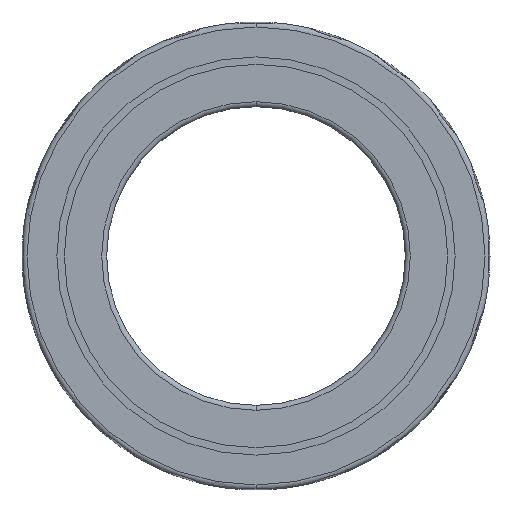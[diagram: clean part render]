
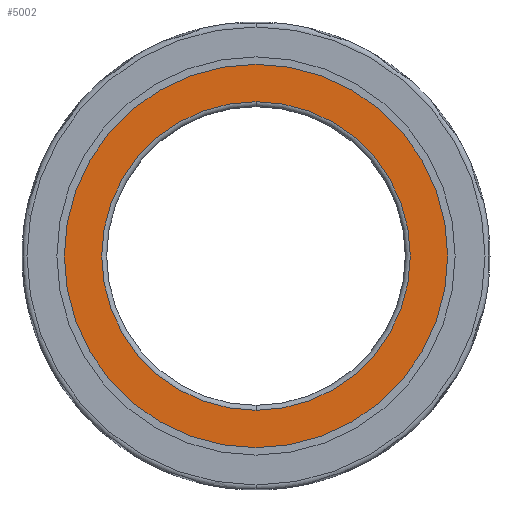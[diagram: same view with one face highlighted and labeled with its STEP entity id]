
A CAD part, front view. The second image highlights one B-rep face of the part: STEP entity #5002.
In plain terms, the highlighted planar face has unit normal (0, -1, 0).
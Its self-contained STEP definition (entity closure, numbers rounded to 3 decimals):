
#143 = EDGE_CURVE ( 'NONE', #6049, #4573, #11818, .T. ) ;
#748 = ORIENTED_EDGE ( 'NONE', *, *, #11024, .F. ) ;
#805 = DIRECTION ( 'NONE',  ( 0., 1., 0. ) ) ;
#1258 = ORIENTED_EDGE ( 'NONE', *, *, #143, .F. ) ;
#1465 = CARTESIAN_POINT ( 'NONE',  ( 16491.984, 2703.742, 0. ) ) ;
#1749 = ORIENTED_EDGE ( 'NONE', *, *, #10948, .T. ) ;
#1840 = CIRCLE ( 'NONE', #11713, 15.5 ) ;
#2720 = EDGE_LOOP ( 'NONE', ( #748, #1258 ) ) ;
#2742 = DIRECTION ( 'NONE',  ( 0., -1., 0. ) ) ;
#3129 = DIRECTION ( 'NONE',  ( 0., -1., 0. ) ) ;
#3145 = VERTEX_POINT ( 'NONE', #8704 ) ;
#3276 = CARTESIAN_POINT ( 'NONE',  ( 16491.984, 2703.742, 0. ) ) ;
#3397 = DIRECTION ( 'NONE',  ( 0., -1., 0. ) ) ;
#3515 = AXIS2_PLACEMENT_3D ( 'NONE', #3276, #8046, #11794 ) ;
#3632 = CARTESIAN_POINT ( 'NONE',  ( 0., 2703.742, 0. ) ) ;
#3640 = CIRCLE ( 'NONE', #3515, 19.25 ) ;
#3661 = VERTEX_POINT ( 'NONE', #3932 ) ;
#3932 = CARTESIAN_POINT ( 'NONE',  ( 16491.984, 2703.742, -19.25 ) ) ;
#4148 = CARTESIAN_POINT ( 'NONE',  ( 16491.984, 2703.742, 15.5 ) ) ;
#4393 = AXIS2_PLACEMENT_3D ( 'NONE', #3632, #805, #5347 ) ;
#4573 = VERTEX_POINT ( 'NONE', #11362 ) ;
#4581 = CARTESIAN_POINT ( 'NONE',  ( 16491.984, 2703.742, 0. ) ) ;
#4903 = ORIENTED_EDGE ( 'NONE', *, *, #6622, .T. ) ;
#5002 = ADVANCED_FACE ( 'NONE', ( #6912, #11329 ), #6341, .F. ) ;
#5347 = DIRECTION ( 'NONE',  ( 0., 0., 1. ) ) ;
#5566 = AXIS2_PLACEMENT_3D ( 'NONE', #8728, #3129, #9606 ) ;
#5708 = AXIS2_PLACEMENT_3D ( 'NONE', #4581, #2742, #11179 ) ;
#6049 = VERTEX_POINT ( 'NONE', #4148 ) ;
#6341 = PLANE ( 'NONE',  #4393 ) ;
#6622 = EDGE_CURVE ( 'NONE', #3661, #3145, #10272, .T. ) ;
#6912 = FACE_BOUND ( 'NONE', #2720, .T. ) ;
#8046 = DIRECTION ( 'NONE',  ( 0., -1., 0. ) ) ;
#8704 = CARTESIAN_POINT ( 'NONE',  ( 16491.984, 2703.742, 19.25 ) ) ;
#8728 = CARTESIAN_POINT ( 'NONE',  ( 16491.984, 2703.742, 0. ) ) ;
#9606 = DIRECTION ( 'NONE',  ( 0., 0., -1. ) ) ;
#9921 = DIRECTION ( 'NONE',  ( 0., 0., -1. ) ) ;
#10272 = CIRCLE ( 'NONE', #5566, 19.25 ) ;
#10948 = EDGE_CURVE ( 'NONE', #3145, #3661, #3640, .T. ) ;
#11024 = EDGE_CURVE ( 'NONE', #4573, #6049, #1840, .T. ) ;
#11179 = DIRECTION ( 'NONE',  ( 0., 0., -1. ) ) ;
#11329 = FACE_OUTER_BOUND ( 'NONE', #12167, .T. ) ;
#11362 = CARTESIAN_POINT ( 'NONE',  ( 16491.984, 2703.742, -15.5 ) ) ;
#11713 = AXIS2_PLACEMENT_3D ( 'NONE', #1465, #3397, #9921 ) ;
#11794 = DIRECTION ( 'NONE',  ( 0., 0., -1. ) ) ;
#11818 = CIRCLE ( 'NONE', #5708, 15.5 ) ;
#12167 = EDGE_LOOP ( 'NONE', ( #4903, #1749 ) ) ;
